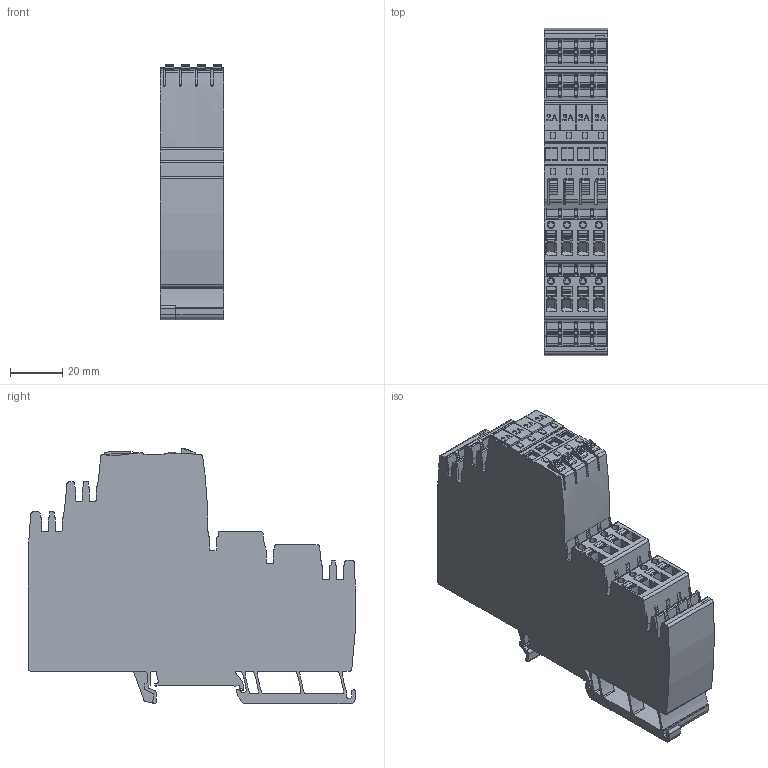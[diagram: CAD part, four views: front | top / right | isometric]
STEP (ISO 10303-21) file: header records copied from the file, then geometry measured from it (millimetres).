
FILE_DESCRIPTION(('CATIA V5R24 STEP','CAx-IF Rec.Pracs.--- Model Styling and Organization---1.2---2011-12-15'),'2;1');
FILE_NAME('\\SRVDE107\Germany\WMC\1_WMC_Input\Step_BU_PA\2080750000.stp','2017-09-05T09:08:23+00:00',('Weidmueller Interface'),('WI'),'CATIA Version 5-6 Release 2014 SP4','CATIA V5 STEP AP214','none');
FILE_SCHEMA(('AUTOMOTIVE_DESIGN { 1 0 10303 214 1 1 1 1 }'));
Length unit declared in the file: millimetre
Products named in the file (1): 2080750000
Bounding box: 24.3 x 125.07 x 97.53 mm (x, y, z)
Volume: 190069.5 mm3; surface area: 45740.5 mm2
Topology: 32 solids, 32 shells, 2861 faces, 8512 edges, 5796 vertices
Faces by surface type: plane 1733, cylinder 987, extrusion 133, torus 8
Entity records: 100058 total; most frequent: CARTESIAN_POINT 23263, ORIENTED_EDGE 17024, DIRECTION 12447, EDGE_CURVE 8512, VECTOR 6048, LINE 5915, VERTEX_POINT 5796, AXIS2_PLACEMENT_3D 4183
